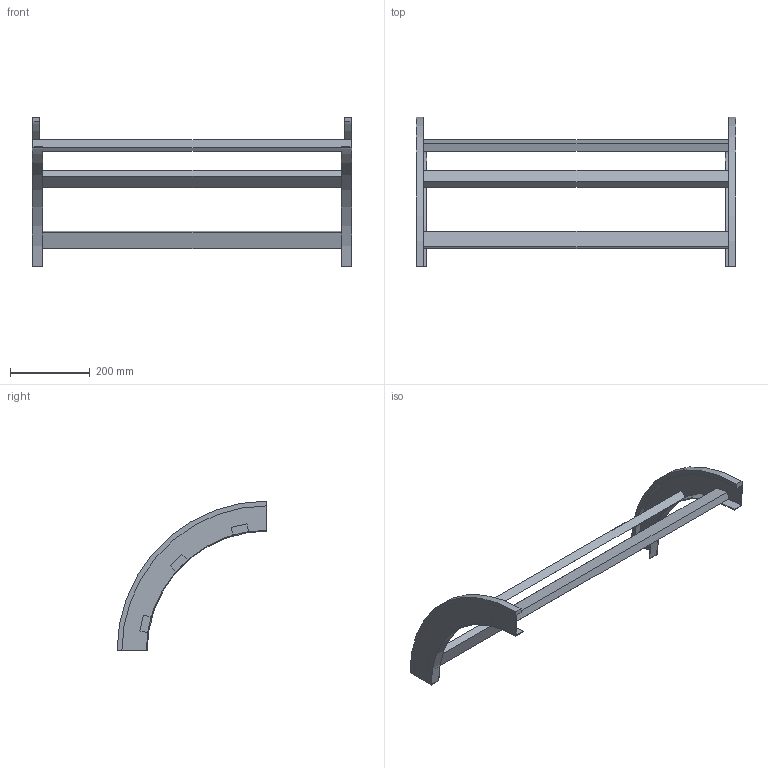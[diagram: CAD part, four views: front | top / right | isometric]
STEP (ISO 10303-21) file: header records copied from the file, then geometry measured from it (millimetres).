
FILE_DESCRIPTION (( 'STEP AP214' ), '1' );
FILE_NAME ('B2_33B3C800.step', '2025-02-21T15:06:19', ( '' ), ( '' ), 'SwSTEP 2.0', 'SolidWorks 2023', '' );
FILE_SCHEMA (( 'AUTOMOTIVE_DESIGN' ));
Length unit declared in the file: millimetre
Products named in the file (3): B2_33B3C800; B2_LONGH.DISCESA_90°_H75_R300; TRAVERSINO_800
Assembly tree (5 placements, depth 2):
  B2_33B3C800
    B2_LONGH.DISCESA_90°_H75_R300  x2
    TRAVERSINO_800  x3
Bounding box: 800 x 375 x 375 mm (x, y, z)
Volume: 2363179.7 mm3; surface area: 543037.2 mm2
Topology: 5 solids, 5 shells, 38 faces, 84 edges, 56 vertices
Faces by surface type: plane 30, cylinder 8
Entity records: 560 total; most frequent: DIRECTION 92, CARTESIAN_POINT 84, ORIENTED_EDGE 72, EDGE_CURVE 36, AXIS2_PLACEMENT_3D 32, LINE 28, VECTOR 28, VERTEX_POINT 24
